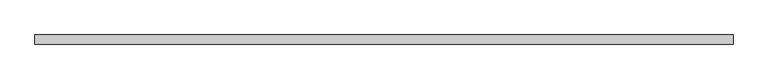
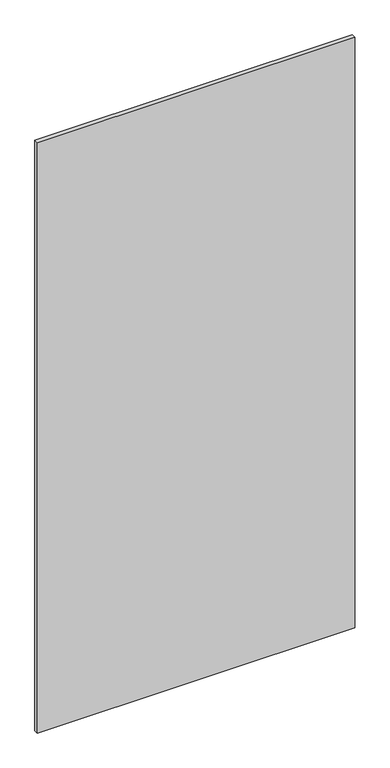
"""IFC4 building model written with IfcOpenShell, lengths in millimetres: plate geometry, 系统嵌板 : 玻璃."""

from ifc_helpers import new_model, si_unit, origin, origin_with_axes, place, context, project, spatial, polyline, outline, extrude, source, transform, mapped, element, save


def plate_ae86cf34(model_context):
    return source(origin(), model_context, "Body", "SweptSolid", [
        extrude(outline(polyline([(915.0, -12.5), (-915.0, -12.5), (-915.0, 12.5), (915.0, 12.5), (915.0, -12.5)])), origin_with_axes(), (0.0, 0.0, 1.0), 3600.0),
    ])


if __name__ == "__main__":
    model = new_model("IFC4")
    model_context = context("Model", 3, world=origin())
    ifc_project = project(units=[si_unit("LENGTHUNIT", "METRE", prefix="MILLI")], contexts=[model_context])
    site = spatial("IfcSite", under=ifc_project)
    building = spatial("IfcBuilding", under=site)
    placement = place(None, origin())
    plate_shape = plate_ae86cf34(model_context)
    element("IfcPlate", 1, ObjectType="系统嵌板 : 玻璃", at=placement, inside=building, context=model_context, shape_type="MappedRepresentation", body=[
        mapped(plate_shape, transform((0.0, 0.0, 0.0), x_axis=(1.0, 0.0, 0.0), y_axis=(0.0, 1.0, 0.0), z_axis=(0.0, 0.0, 1.0))),
    ])
    save(model, "model.ifc")
